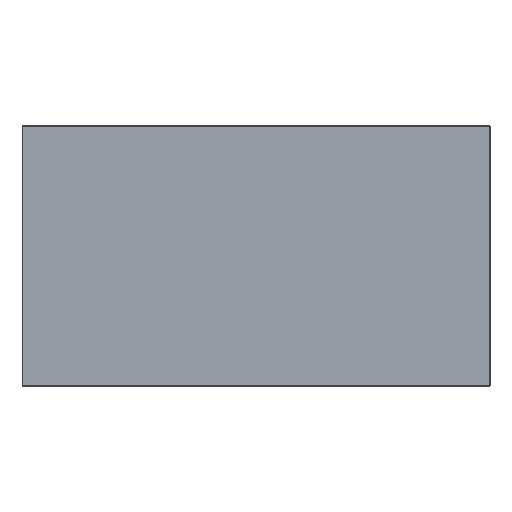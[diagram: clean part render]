
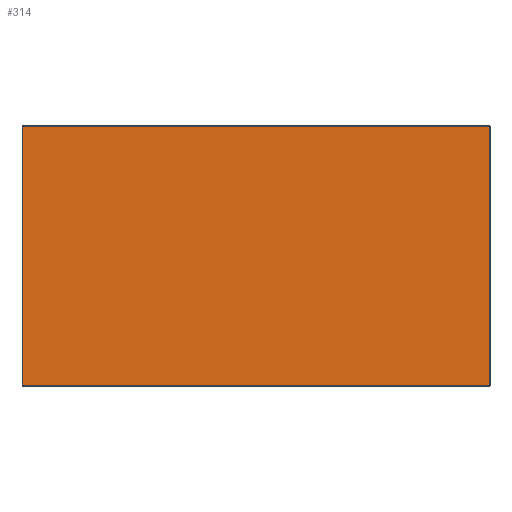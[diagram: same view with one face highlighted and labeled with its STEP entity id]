
A CAD part, top view. The second image highlights one B-rep face of the part: STEP entity #314.
In plain terms, the highlighted planar face has unit normal (0, 0, 1).
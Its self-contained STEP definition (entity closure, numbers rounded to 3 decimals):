
#314=ADVANCED_FACE('',(#552),#2948,.T.);
#552=FACE_OUTER_BOUND('',#790,.T.);
#790=EDGE_LOOP('',(#1583,#1584,#1585,#1586));
#1583=ORIENTED_EDGE('',*,*,#2075,.T.);
#1584=ORIENTED_EDGE('',*,*,#2078,.T.);
#1585=ORIENTED_EDGE('',*,*,#2076,.T.);
#1586=ORIENTED_EDGE('',*,*,#2077,.T.);
#2075=EDGE_CURVE('',#2743,#2744,#2495,.T.);
#2076=EDGE_CURVE('',#2745,#2746,#2496,.T.);
#2077=EDGE_CURVE('',#2746,#2743,#2497,.T.);
#2078=EDGE_CURVE('',#2744,#2745,#2498,.T.);
#2495=B_SPLINE_CURVE_WITH_KNOTS('',1,(#5521,#5522),.UNSPECIFIED.,.F.,.F.,
(2,2),(0.1,999.9),.UNSPECIFIED.);
#2496=B_SPLINE_CURVE_WITH_KNOTS('',1,(#5523,#5524),.UNSPECIFIED.,.F.,.F.,
(2,2),(0.1,999.9),.UNSPECIFIED.);
#2497=B_SPLINE_CURVE_WITH_KNOTS('',1,(#5525,#5526),.UNSPECIFIED.,.F.,.F.,
(2,2),(0.1,1799.9),.UNSPECIFIED.);
#2498=B_SPLINE_CURVE_WITH_KNOTS('',1,(#5527,#5528),.UNSPECIFIED.,.F.,.F.,
(2,2),(0.1,1799.9),.UNSPECIFIED.);
#2743=VERTEX_POINT('',#5477);
#2744=VERTEX_POINT('',#5478);
#2745=VERTEX_POINT('',#5479);
#2746=VERTEX_POINT('',#5480);
#2948=PLANE('',#3110);
#3110=AXIS2_PLACEMENT_3D('',#5412,#3255,$);
#3255=DIRECTION('',(0.,0.,1.));
#5412=CARTESIAN_POINT('',(-900.,-500.,720.));
#5477=CARTESIAN_POINT('',(899.9,-499.9,720.));
#5478=CARTESIAN_POINT('',(899.9,499.9,720.));
#5479=CARTESIAN_POINT('',(-899.9,499.9,720.));
#5480=CARTESIAN_POINT('',(-899.9,-499.9,720.));
#5521=CARTESIAN_POINT('',(899.9,-499.9,720.));
#5522=CARTESIAN_POINT('',(899.9,499.9,720.));
#5523=CARTESIAN_POINT('',(-899.9,499.9,720.));
#5524=CARTESIAN_POINT('',(-899.9,-499.9,720.));
#5525=CARTESIAN_POINT('',(-899.9,-499.9,720.));
#5526=CARTESIAN_POINT('',(899.9,-499.9,720.));
#5527=CARTESIAN_POINT('',(899.9,499.9,720.));
#5528=CARTESIAN_POINT('',(-899.9,499.9,720.));
